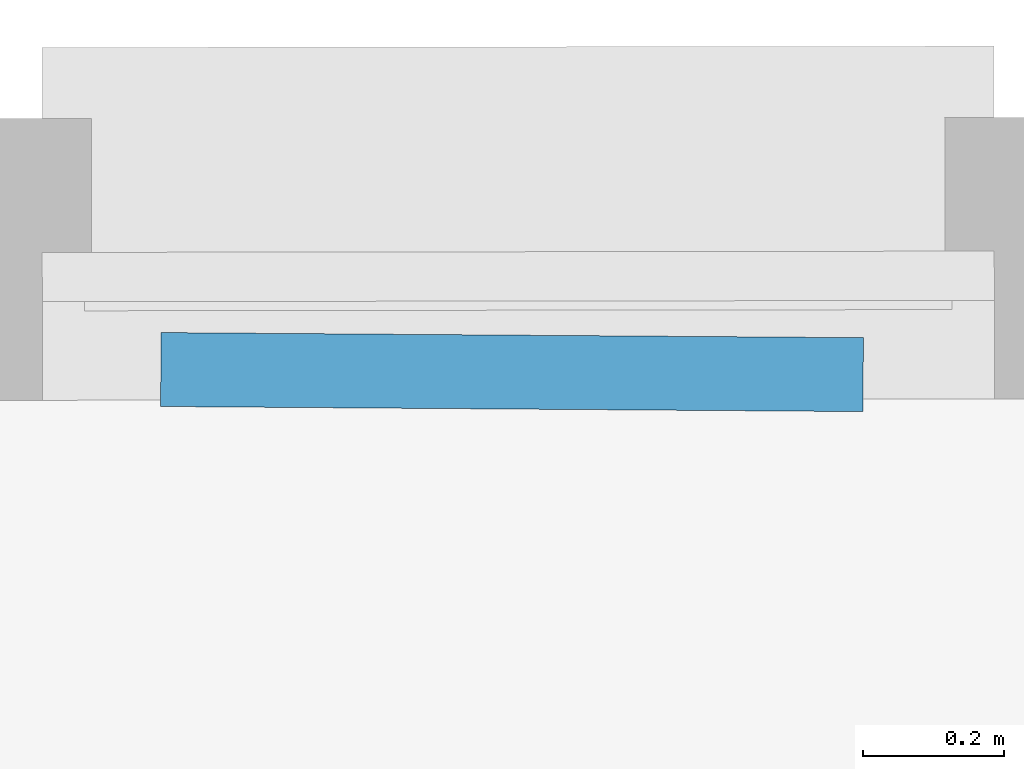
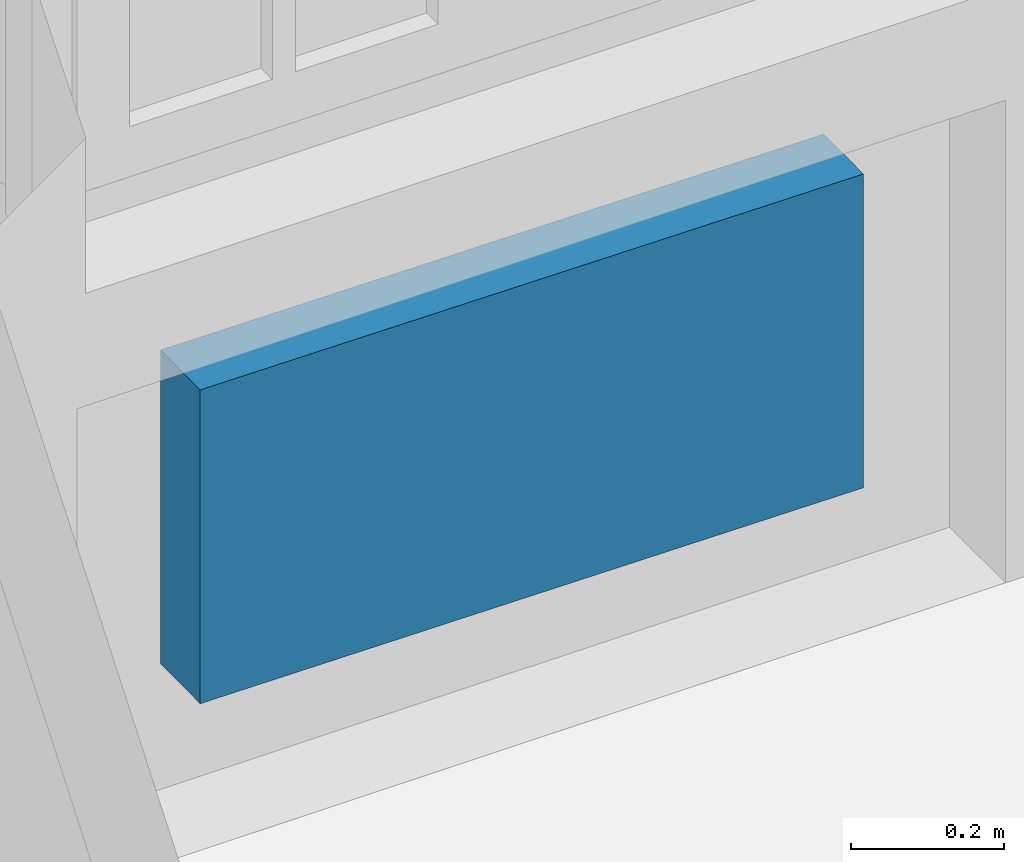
# One storey, part 36 of 158: 1 wall.
"""IFC2X3 building model written with IfcOpenShell, lengths in metres."""

from ifc_helpers import new_model, entity, si_unit, converted_unit, derived_unit, money_unit, direction, frame, origin_with_axes, place, context, subcontext, project, spatial, polyline, outline, extrude, material, layer, layer_set, layer_usage, type_object, element, save


model = new_model("IFC2X3")

# Units and contexts
model_context = context("Model", 3, precision=1e-05, world=origin_with_axes(), true_north=direction((0.0, 1.0)))
body_context = subcontext(model_context, "Body", "Model", "MODEL_VIEW")
ifc_project = project(units=[si_unit("LENGTHUNIT", "METRE"), si_unit("AREAUNIT", "SQUARE_METRE"), si_unit("VOLUMEUNIT", "CUBIC_METRE"), converted_unit("PLANEANGLEUNIT", "DEGREE", entity("IfcPlaneAngleMeasure", 0.0174532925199), si_unit("PLANEANGLEUNIT", "RADIAN"), dimensions=[0, 0, 0, 0, 0, 0, 0]), money_unit("EUR"), converted_unit("TIMEUNIT", "Year", entity("IfcTimeMeasure", 31556926.0), si_unit("TIMEUNIT", "SECOND"), dimensions=[0, 0, 1, 0, 0, 0, 0]), si_unit("MASSUNIT", "GRAM", prefix="KILO"), si_unit("THERMODYNAMICTEMPERATUREUNIT", "DEGREE_CELSIUS"), si_unit("LUMINOUSINTENSITYUNIT", "LUMEN"), si_unit("ENERGYUNIT", "JOULE", prefix="MEGA"), derived_unit("THERMALCONDUCTANCEUNIT", [(si_unit("POWERUNIT", "WATT"), 1), (si_unit("LENGTHUNIT", "METRE"), -1), (si_unit("THERMODYNAMICTEMPERATUREUNIT", "KELVIN"), -1)]), derived_unit("SPECIFICHEATCAPACITYUNIT", [(si_unit("ENERGYUNIT", "JOULE"), 1), (si_unit("MASSUNIT", "GRAM", prefix="KILO"), -1), (si_unit("THERMODYNAMICTEMPERATUREUNIT", "KELVIN"), -1)]), derived_unit("MASSDENSITYUNIT", [(si_unit("MASSUNIT", "GRAM", prefix="KILO"), 1), (si_unit("VOLUMEUNIT", "CUBIC_METRE"), -1)])], contexts=[model_context])

# Site, building, storey
site_placement = place(None, origin_with_axes())
site = spatial("IfcSite", under=ifc_project, at=site_placement, Name="Gelände", CompositionType="ELEMENT")
building_placement = place(site_placement, origin_with_axes())
building = spatial("IfcBuilding", under=site, at=building_placement, Name="Gebäude", CompositionType="ELEMENT")
storey_placement = place(building_placement, origin_with_axes())
storey = spatial("IfcBuildingStorey", under=building, at=storey_placement, Name="ERDGESCHOSS", CompositionType="ELEMENT", Elevation=0.0)

# Wall
ifc_material = material(Name="01_ALLGEMEIN - BAUTEIL")
ifc_layer = layer(ifc_material, 0.105, ventilated="UNKNOWN")
ifc_layer_set = layer_set([ifc_layer], Name="01_ALLGEMEIN - BAUTEIL 0.105")
ifc_layer_usage = layer_usage(ifc_layer_set, "AXIS2", "NEGATIVE", 0.105)
wall_type = type_object("IfcWallType", Name="01_ALLGEMEIN - BAUTEIL 105", PredefinedType="ELEMENTEDWALL")
wall_placement = place(storey_placement, frame((-1.09598421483, 25.6568718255, 0.161295), z_axis=(0.0, 0.0, 1.0), x_axis=(0.999973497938, -0.00728034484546, 0.0)))
element("IfcWallStandardCase", 1, at=wall_placement, inside=storey, type_object=wall_type, material=ifc_layer_usage, Name="Wand-036", ObjectType="ELEMENTEDWALL", context=body_context, shape_type="SweptSolid", body=[
    extrude(outline(polyline([(0.0, 0.0), (0.997402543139, 0.0), (0.997402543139, 0.105), (0.0, 0.105), (0.0, 0.0)])), origin_with_axes(), (0.0, 0.0, 1.0), 0.501014),
])

save(model, "model.ifc")
